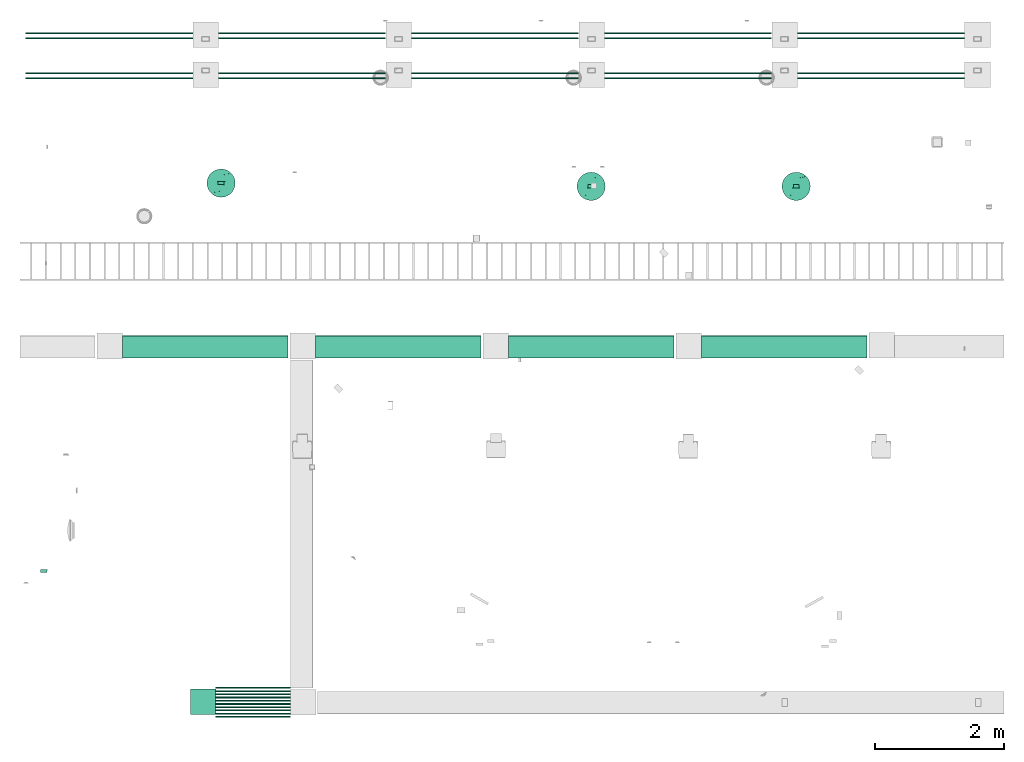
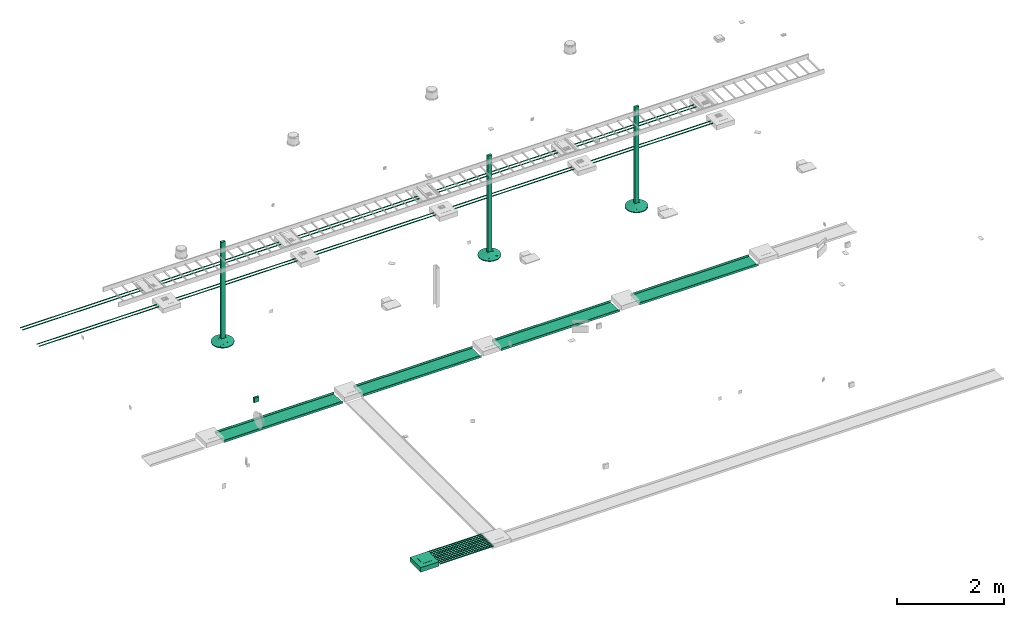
# One storey, part 1 of 24: 34 flow segments, 4 flow fittings, 1 flow terminal.
"""IFC2X3 building model written with IfcOpenShell, lengths in millimetres."""

from ifc_helpers import new_model, entity, si_unit, converted_unit, derived_unit, direction, frame, origin_with_axes, origin_2d_with_axis, place, context, subcontext, project, spatial, hollow_circle, extrude, open_shell, surface_model, source, transform, mapped, type_object, element, save


model = new_model("IFC2X3")

# Units and contexts
model_context = context("Model", 3, precision=0.01, world=frame((0.0, 4.29681676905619e-09, 0.0)), true_north=direction((4.01073788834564e-13, 1.0)))
plan_context = context("Plan", 3, precision=0.01, world=frame((0.0, 4.29681676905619e-09, 0.0)), true_north=direction((4.01073788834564e-13, 1.0)))
body_context = subcontext(model_context, "Body", "Model", "MODEL_VIEW")
ifc_project = project(units=[converted_unit("PLANEANGLEUNIT", "DEGREE", entity("IfcPositiveLengthMeasure", 0.0174532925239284), si_unit("PLANEANGLEUNIT", "RADIAN"), dimensions=[0, 0, 0, 0, 0, 0, 0]), si_unit("AREAUNIT", "SQUARE_METRE"), si_unit("LENGTHUNIT", "METRE", prefix="MILLI"), si_unit("MASSUNIT", "GRAM", prefix="KILO"), si_unit("POWERUNIT", "WATT"), si_unit("PRESSUREUNIT", "PASCAL"), si_unit("FORCEUNIT", "NEWTON", prefix="KILO"), si_unit("ELECTRICVOLTAGEUNIT", "VOLT"), si_unit("ELECTRICCURRENTUNIT", "AMPERE"), si_unit("THERMODYNAMICTEMPERATUREUNIT", "DEGREE_CELSIUS"), si_unit("TIMEUNIT", "SECOND"), si_unit("VOLUMEUNIT", "CUBIC_METRE"), derived_unit("LINEARVELOCITYUNIT", [(si_unit("LENGTHUNIT", "METRE"), 1), (si_unit("TIMEUNIT", "SECOND"), -1)]), derived_unit("VOLUMETRICFLOWRATEUNIT", [(si_unit("VOLUMEUNIT", "CUBIC_METRE"), 1), (si_unit("TIMEUNIT", "SECOND"), -1)]), derived_unit("THERMALTRANSMITTANCEUNIT", [(si_unit("POWERUNIT", "WATT"), 1), (si_unit("THERMODYNAMICTEMPERATUREUNIT", "KELVIN"), -1), (si_unit("AREAUNIT", "SQUARE_METRE"), -1)]), derived_unit("SOUNDPRESSUREUNIT", [(si_unit("PRESSUREUNIT", "PASCAL"), 1)])], contexts=[model_context, plan_context])

# Site, building, storey
site_placement = place(None, frame((0.0, -4.29681676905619e-09, 0.0), z_axis=(0.0, 0.0, 1.0), x_axis=(1.0, 0.0, 0.0)))
site = spatial("IfcSite", under=ifc_project, at=site_placement, Name="ENGM", CompositionType="ELEMENT")
building_placement = place(site_placement, frame((0.0, 4.29681676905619e-09, 0.0), z_axis=(0.0, 0.0, 1.0), x_axis=(1.0, 0.0, 0.0)))
building = spatial("IfcBuilding", under=site, at=building_placement, Name="TH", CompositionType="ELEMENT")
storey_placement = place(building_placement, frame((0.0, 0.0, 210200.0), z_axis=(0.0, 0.0, 1.0), x_axis=(1.0, 0.0, 0.0)))
storey = spatial("IfcBuildingStorey", under=building, at=storey_placement, Name="Nivå F - 0,7 m", CompositionType="ELEMENT", Elevation=210200.0)

# Flow fittings
junction_box_type = type_object("IfcJunctionBoxType", Name="Koblingsboks åpen", PredefinedType="NOTDEFINED")
shared_shape_1 = source(origin_with_axes(), body_context, "Body", "SurfaceModel", [
    surface_model("IfcShellBasedSurfaceModel", [(-55.0, 46.0, 55.0), (-55.0, 32.2, 55.0), (55.0, 32.2, 55.0), (55.0, 46.0, 55.0), (55.0, 46.0, -55.0), (55.0, 32.2, -55.0), (-55.0, 32.2, -55.0), (-55.0, 46.0, -55.0), (-52.0, 32.2, 52.0), (-52.0, 0.0, 52.0), (52.0, 0.0, 52.0), (52.0, 32.2, 52.0), (52.0, 32.2, -52.0), (52.0, 0.0, -52.0), (-52.0, 0.0, -52.0), (-52.0, 32.2, -52.0)], [open_shell([[[0, 1, 2]], [[2, 3, 0]], [[4, 5, 6]], [[6, 7, 4]], [[2, 1, 6]], [[6, 5, 2]], [[3, 2, 5]], [[5, 4, 3]], [[0, 3, 4]], [[4, 7, 0]], [[1, 0, 7]], [[7, 6, 1]], [[8, 9, 10]], [[10, 11, 8]], [[12, 13, 14]], [[14, 15, 12]], [[10, 9, 14]], [[14, 13, 10]], [[11, 10, 13]], [[13, 12, 11]], [[8, 11, 12]], [[12, 15, 8]], [[9, 8, 15]], [[15, 14, 9]]])]),
])
flow_fitting_placement = place(storey_placement, frame((895482.7131, 478641.6375, 3300.0), z_axis=(0.0, 0.0, 1.0), x_axis=(1.0, 0.0, 0.0)))
element("IfcFlowFitting", 1, at=flow_fitting_placement, inside=storey, type_object=junction_box_type, Name="Koblingsboks åpen", context=body_context, shape_type="MappedRepresentation", body=[
    mapped(shared_shape_1, transform((0.0, 0.0, 0.0), scale=1.0)),
])
cable_carrier_fitting_type = type_object("IfcCableCarrierFittingType", Name="NedføringsStaver", PredefinedType="NOTDEFINED")
shared_shape_2 = source(origin_with_axes(), body_context, "Body", "SurfaceModel", [
    surface_model("IfcShellBasedSurfaceModel", [(95.45442, -198.21316, 18.26334), (0.0, -220.0, 18.26334), (48.95461, -214.48415, 18.26334), (-220.0, 0.0, 18.26334), (172.00293, -137.16775, 18.26334), (214.48415, -48.95461, 18.26334), (214.48415, 48.95461, 18.26334), (198.21316, -95.45442, 18.26334), (137.16775, -172.00293, 18.26334), (-48.95461, -214.48415, 18.26334), (-137.16775, -172.00293, 18.26334), (-95.45442, -198.21316, 18.26334), (-172.00293, -137.16775, 18.26334), (-214.48415, -48.95461, 18.26334), (-198.21316, -95.45442, 18.26334), (220.0, 0.0, 18.26334), (198.21316, 95.45442, 18.26334), (172.00293, 137.16775, 18.26334), (95.45442, 198.21316, 18.26334), (48.95461, 214.48415, 18.26334), (0.0, 220.0, 18.26334), (137.16775, 172.00293, 18.26334), (-198.21316, 95.45442, 18.26334), (-214.48415, 48.95461, 18.26334), (-137.16775, 172.00293, 18.26334), (-48.95461, 214.48415, 18.26334), (-95.45442, 198.21316, 18.26334), (-172.00293, 137.16775, 18.26334), (0.0, 220.0, 0.0), (48.95461, 214.48415, 0.0), (95.45442, 198.21316, 0.0), (172.00293, 137.16775, 0.0), (198.21316, 95.45442, 0.0), (214.48415, 48.95461, 0.0), (137.16775, 172.00293, 0.0), (-220.0, 0.0, 0.0), (-214.48415, -48.95461, 0.0), (-48.95461, 214.48415, 0.0), (-137.16775, 172.00293, 0.0), (-95.45442, 198.21316, 0.0), (-172.00293, 137.16775, 0.0), (-198.21316, 95.45442, 0.0), (-214.48415, 48.95461, 0.0), (137.16775, -172.00293, 0.0), (214.48415, -48.95461, 0.0), (172.00293, -137.16775, 0.0), (198.21316, -95.45442, 0.0), (95.45442, -198.21316, 0.0), (48.95461, -214.48415, 0.0), (-172.00293, -137.16775, 0.0), (-198.21316, -95.45442, 0.0), (-137.16775, -172.00293, 0.0), (0.0, -220.0, 0.0), (-48.95461, -214.48415, 0.0), (-95.45442, -198.21316, 0.0), (220.0, 0.0, 0.0), (25.0, -45.0, 93.77002), (25.0, 45.0, 93.77002), (-25.0, 45.0, 93.77002), (-25.0, -45.0, 93.77002), (215.76334, 37.60134, 18.26334), (196.17122, 5.49895, 27.49017), (156.45658, 14.66386, 42.86822), (172.34244, 10.9979, 36.717), (185.10803, 116.31109, 18.26334), (206.34865, 72.20451, 18.26334), (-188.2283, 7.33193, 30.56578), (-206.34865, 72.20451, 18.26334), (140.2953, 88.19156, 40.72326), (154.58535, 154.58535, 18.26334), (131.43317, 100.56336, 40.9915), (116.31109, 185.10803, 18.26334), (115.09582, 112.43056, 43.12803), (188.2283, 7.33193, 30.56578), (59.60667, 131.26162, 50.76319), (82.1568, 125.31404, 48.14468), (72.20451, 206.34865, 18.26334), (41.97829, 41.08193, 87.1958), (41.90192, 93.74408, 68.57105), (33.48915, 43.04097, 90.4829), (-172.34244, 10.9979, 36.717), (-156.45658, 14.66386, 42.86822), (101.77074, 124.07315, 43.47792), (-140.57073, 18.32983, 49.01945), (-185.10803, 116.31109, 18.26334), (204.11414, 3.66597, 24.41456), (217.04255, 26.24807, 18.26334), (-191.66059, 105.88275, 18.26334), (-196.17122, 5.49895, 27.49017), (-217.04255, 26.24807, 18.26334), (-204.11414, 3.66597, 24.41456), (100.8561, 27.49475, 64.3975), (108.79903, 25.66176, 61.32189), (-37.32643, 122.76348, 57.69846), (-48.15002, 159.92659, 41.0503), (-60.80241, 128.83053, 51.47732), (15.14529, 166.09242, 41.21831), (2.23099, 141.72213, 52.02976), (12.46186, 104.83173, 67.61278), (0.0, 45.0, 93.77002), (-124.68488, 21.9958, 55.17066), (-139.91663, 95.60307, 39.24375), (-154.58535, 154.58535, 18.26334), (-112.57001, 109.94689, 44.61835), (-98.05938, 122.37782, 45.0433), (-116.31109, 185.10803, 18.26334), (-81.44098, 129.58253, 46.80384), (-72.20451, 206.34865, 18.26334), (140.57073, 18.32983, 49.01945), (178.55549, 126.73942, 18.26334), (-124.33681, 97.10567, 44.23458), (-92.91317, 29.32773, 67.47311), (67.44573, 35.20483, 77.33445), (75.93488, 33.2458, 74.04734), (-215.76334, 37.60134, 18.26334), (124.68488, 21.9958, 55.17066), (-145.87655, 163.29414, 18.26334), (84.42403, 31.28676, 70.76022), (28.44963, 87.23256, 73.42031), (45.93768, 144.99445, 47.45859), (31.73936, 136.50408, 52.65215), (58.95658, 37.16387, 80.62157), (50.46744, 39.1229, 83.90868), (24.4773, 217.24206, 18.26334), (-2.67744, 94.285, 72.4874), (-58.95658, 37.16387, 80.62157), (-33.47652, 174.81498, 36.36438), (-12.47819, 131.88295, 56.01668), (-24.4773, 217.24206, 18.26334), (-41.97829, 41.08193, 87.1958), (-33.48915, 43.04097, 90.4829), (-50.46744, 39.1229, 83.90868), (-67.44573, 35.20483, 77.33445), (-84.42403, 31.28676, 70.76022), (92.91317, 29.32773, 67.47311), (-75.93488, 33.2458, 74.04734), (-108.79903, 25.66176, 61.32189), (-215.76334, -37.60134, 18.26334), (-196.17122, -5.49895, 27.49017), (-156.45658, -14.66386, 42.86822), (-172.34244, -10.9979, 36.717), (-185.10803, -116.31109, 18.26334), (-206.34865, -72.20451, 18.26334), (188.2283, -7.33193, 30.56578), (206.34865, -72.20451, 18.26334), (-140.2953, -88.19156, 40.72326), (-154.58535, -154.58535, 18.26334), (-131.43317, -100.56336, 40.9915), (-116.31109, -185.10803, 18.26334), (-115.09582, -112.43056, 43.12803), (-188.2283, -7.33193, 30.56578), (-59.60667, -131.26162, 50.76319), (-82.1568, -125.31404, 48.14468), (-72.20451, -206.34865, 18.26334), (-41.97829, -41.08193, 87.1958), (-41.90192, -93.74408, 68.57105), (-33.48915, -43.04097, 90.4829), (172.34244, -10.9979, 36.717), (156.45658, -14.66386, 42.86822), (-101.77074, -124.07315, 43.47792), (140.57073, -18.32983, 49.01945), (185.10803, -116.31109, 18.26334), (-204.11414, -3.66597, 24.41456), (-217.04255, -26.24807, 18.26334), (191.66059, -105.88275, 18.26334), (196.17122, -5.49895, 27.49017), (217.04255, -26.24807, 18.26334), (204.11414, -3.66597, 24.41456), (-100.8561, -27.49475, 64.3975), (-108.79903, -25.66176, 61.32189), (37.32643, -122.76348, 57.69846), (48.15002, -159.92659, 41.0503), (60.80241, -128.83053, 51.47732), (-15.14529, -166.09242, 41.21831), (-2.23099, -141.72213, 52.02976), (-12.46186, -104.83173, 67.61278), (0.0, -45.0, 93.77002), (124.68488, -21.9958, 55.17066), (139.91663, -95.60307, 39.24375), (154.58535, -154.58535, 18.26334), (112.57001, -109.94689, 44.61835), (98.05938, -122.37782, 45.0433), (116.31109, -185.10803, 18.26334), (81.44098, -129.58253, 46.80384), (72.20451, -206.34865, 18.26334), (-140.57073, -18.32983, 49.01945), (-178.55549, -126.73942, 18.26334), (124.33681, -97.10567, 44.23458), (92.91317, -29.32773, 67.47311), (-67.44573, -35.20483, 77.33445), (-75.93488, -33.2458, 74.04734), (215.76334, -37.60134, 18.26334), (-124.68488, -21.9958, 55.17066), (145.87655, -163.29414, 18.26334), (-84.42403, -31.28676, 70.76022), (-28.44963, -87.23256, 73.42031), (-45.93768, -144.99445, 47.45859), (-31.73936, -136.50408, 52.65215), (-58.95658, -37.16387, 80.62157), (-50.46744, -39.1229, 83.90868), (-24.4773, -217.24206, 18.26334), (2.67744, -94.285, 72.4874), (58.95658, -37.16387, 80.62157), (33.47652, -174.81498, 36.36438), (12.47819, -131.88295, 56.01668), (24.4773, -217.24206, 18.26334), (41.97829, -41.08193, 87.1958), (33.48915, -43.04097, 90.4829), (50.46744, -39.1229, 83.90868), (67.44573, -35.20483, 77.33445), (84.42403, -31.28676, 70.76022), (-92.91317, -29.32773, 67.47311), (75.93488, -33.2458, 74.04734), (108.79903, -25.66176, 61.32189), (25.0, -45.0, 2300.00002), (25.0, 45.0, 2300.00002), (-25.0, -45.0, 2300.00002), (-25.0, 45.0, 2300.00002), (-25.0, -45.0, 0.0), (-25.0, 45.0, 0.0), (25.0, -45.0, 0.0), (25.0, 45.0, 0.0)], [open_shell([[[0, 1, 2]], [[0, 3, 1]], [[4, 5, 6]], [[4, 7, 5]], [[0, 8, 3]], [[3, 8, 4]], [[9, 10, 11]], [[10, 9, 1]], [[12, 10, 13]], [[13, 14, 12]], [[10, 1, 13]], [[13, 1, 3]], [[15, 6, 5]], [[6, 16, 17]], [[6, 17, 18]], [[6, 18, 3]], [[19, 20, 18]], [[18, 17, 21]], [[3, 18, 20]], [[3, 22, 23]], [[22, 3, 24]], [[25, 26, 24]], [[27, 22, 24]], [[3, 20, 24]], [[20, 25, 24]], [[6, 3, 4]], [[28, 29, 30]], [[28, 30, 31]], [[32, 33, 31]], [[31, 33, 28]], [[30, 34, 31]], [[35, 28, 36]], [[37, 38, 39]], [[37, 28, 38]], [[40, 38, 41]], [[35, 42, 41]], [[38, 35, 41]], [[28, 35, 38]], [[28, 33, 43]], [[44, 45, 33]], [[45, 44, 46]], [[47, 28, 43]], [[28, 47, 36]], [[45, 43, 33]], [[36, 47, 48]], [[36, 49, 50]], [[49, 36, 51]], [[52, 53, 54]], [[54, 51, 52]], [[52, 51, 36]], [[36, 48, 52]], [[44, 33, 55]], [[36, 13, 35]], [[50, 14, 36]], [[10, 49, 51]], [[51, 54, 11]], [[50, 49, 12]], [[53, 9, 54]], [[12, 14, 50]], [[14, 13, 36]], [[13, 3, 35]], [[9, 11, 54]], [[10, 51, 11]], [[10, 12, 49]], [[9, 53, 1]], [[53, 52, 1]], [[48, 2, 52]], [[47, 0, 48]], [[46, 44, 7]], [[5, 44, 55]], [[43, 8, 47]], [[8, 45, 4]], [[8, 0, 47]], [[2, 48, 0]], [[43, 45, 8]], [[45, 46, 4]], [[4, 46, 7]], [[7, 44, 5]], [[55, 15, 5]], [[52, 2, 1]], [[33, 6, 55]], [[32, 16, 33]], [[21, 31, 34]], [[34, 30, 18]], [[32, 31, 17]], [[29, 19, 30]], [[17, 16, 32]], [[16, 6, 33]], [[6, 15, 55]], [[19, 18, 30]], [[21, 34, 18]], [[21, 17, 31]], [[19, 29, 20]], [[29, 28, 20]], [[26, 39, 38]], [[41, 42, 22]], [[27, 40, 41]], [[24, 38, 40]], [[23, 42, 35]], [[25, 37, 26]], [[37, 25, 28]], [[26, 37, 39]], [[24, 26, 38]], [[40, 27, 24]], [[41, 22, 27]], [[23, 22, 42]], [[35, 3, 23]], [[28, 25, 20]], [[5, 6, 15]], [[8, 5, 7]], [[0, 2, 8]], [[21, 5, 25]], [[7, 4, 8]], [[25, 5, 8]], [[16, 21, 17]], [[21, 16, 6]], [[25, 19, 18]], [[25, 20, 19]], [[6, 5, 21]], [[18, 21, 25]], [[8, 2, 14]], [[1, 9, 11]], [[1, 11, 12]], [[14, 2, 12]], [[25, 8, 14]], [[11, 10, 12]], [[25, 14, 13]], [[26, 27, 24]], [[3, 26, 25]], [[3, 23, 22]], [[22, 27, 3]], [[3, 27, 26]], [[25, 13, 3]], [[2, 1, 12]], [[56, 57, 58]], [[58, 59, 56]], [[58, 3, 59]], [[60, 6, 61]], [[16, 62, 63]], [[64, 62, 16]], [[63, 65, 16]], [[66, 67, 23]], [[68, 69, 70]], [[21, 71, 72]], [[6, 65, 73]], [[74, 75, 76]], [[77, 78, 79]], [[80, 81, 22]], [[71, 82, 72]], [[83, 27, 84]], [[85, 86, 60]], [[81, 87, 22]], [[23, 88, 66]], [[67, 66, 80]], [[89, 3, 90]], [[70, 91, 92]], [[93, 94, 95]], [[96, 97, 98]], [[98, 99, 57]], [[100, 101, 102]], [[103, 104, 105]], [[106, 95, 107]], [[17, 108, 109]], [[110, 111, 103]], [[6, 73, 61]], [[75, 112, 113]], [[114, 90, 88]], [[90, 114, 89]], [[85, 15, 86]], [[80, 22, 67]], [[73, 65, 63]], [[88, 23, 114]], [[85, 60, 61]], [[27, 83, 100]], [[81, 83, 84]], [[81, 84, 87]], [[17, 115, 108]], [[62, 64, 108]], [[108, 64, 109]], [[115, 17, 69]], [[70, 92, 68]], [[101, 116, 102]], [[102, 27, 100]], [[82, 75, 113]], [[82, 18, 75]], [[18, 82, 71]], [[82, 117, 72]], [[75, 18, 76]], [[79, 78, 118]], [[119, 120, 78]], [[74, 121, 75]], [[74, 76, 19]], [[74, 122, 121]], [[119, 123, 120]], [[58, 99, 124]], [[125, 95, 106]], [[57, 118, 98]], [[126, 127, 128]], [[95, 129, 93]], [[93, 58, 127]], [[107, 26, 106]], [[93, 130, 58]], [[127, 20, 128]], [[94, 107, 95]], [[126, 25, 94]], [[123, 96, 120]], [[131, 129, 95]], [[106, 26, 104]], [[104, 132, 106]], [[104, 103, 133]], [[98, 97, 124]], [[120, 96, 98]], [[26, 105, 104]], [[103, 24, 110]], [[133, 103, 111]], [[72, 134, 91]], [[70, 69, 21]], [[91, 70, 72]], [[72, 70, 21]], [[92, 115, 68]], [[115, 69, 68]], [[123, 20, 96]], [[97, 20, 127]], [[117, 82, 113]], [[117, 134, 72]], [[133, 135, 104]], [[24, 103, 105]], [[110, 24, 116]], [[136, 111, 110]], [[101, 100, 136]], [[116, 101, 110]], [[110, 101, 136]], [[20, 97, 96]], [[124, 97, 127]], [[58, 124, 127]], [[98, 124, 99]], [[75, 121, 112]], [[74, 77, 122]], [[78, 120, 118]], [[77, 74, 78]], [[119, 78, 74]], [[74, 19, 119]], [[123, 119, 19]], [[98, 118, 120]], [[79, 118, 57]], [[95, 125, 131]], [[93, 129, 130]], [[126, 94, 93]], [[107, 94, 25]], [[127, 126, 93]], [[25, 126, 128]], [[132, 104, 135]], [[132, 125, 106]], [[56, 15, 57]], [[137, 13, 138]], [[14, 139, 140]], [[141, 139, 14]], [[140, 142, 14]], [[143, 144, 5]], [[145, 146, 147]], [[10, 148, 149]], [[13, 142, 150]], [[151, 152, 153]], [[154, 155, 156]], [[157, 158, 7]], [[148, 159, 149]], [[160, 4, 161]], [[162, 163, 137]], [[158, 164, 7]], [[5, 165, 143]], [[144, 143, 157]], [[166, 15, 167]], [[147, 168, 169]], [[170, 171, 172]], [[173, 174, 175]], [[175, 176, 59]], [[177, 178, 179]], [[180, 181, 182]], [[183, 172, 184]], [[12, 185, 186]], [[187, 188, 180]], [[13, 150, 138]], [[152, 189, 190]], [[191, 167, 165]], [[167, 191, 166]], [[162, 3, 163]], [[157, 7, 144]], [[150, 142, 140]], [[165, 5, 191]], [[162, 137, 138]], [[4, 160, 177]], [[158, 160, 161]], [[158, 161, 164]], [[12, 192, 185]], [[139, 141, 185]], [[185, 141, 186]], [[192, 12, 146]], [[147, 169, 145]], [[178, 193, 179]], [[179, 4, 177]], [[159, 152, 190]], [[159, 11, 152]], [[11, 159, 148]], [[159, 194, 149]], [[152, 11, 153]], [[156, 155, 195]], [[196, 197, 155]], [[151, 198, 152]], [[151, 153, 9]], [[151, 199, 198]], [[196, 200, 197]], [[56, 176, 201]], [[202, 172, 183]], [[59, 195, 175]], [[203, 204, 205]], [[172, 206, 170]], [[170, 56, 204]], [[184, 0, 183]], [[170, 207, 56]], [[204, 1, 205]], [[171, 184, 172]], [[203, 2, 171]], [[200, 173, 197]], [[208, 206, 172]], [[183, 0, 181]], [[181, 209, 183]], [[181, 180, 210]], [[175, 174, 201]], [[197, 173, 175]], [[0, 182, 181]], [[180, 8, 187]], [[210, 180, 188]], [[149, 211, 168]], [[147, 146, 10]], [[168, 147, 149]], [[149, 147, 10]], [[169, 192, 145]], [[192, 146, 145]], [[200, 1, 173]], [[174, 1, 204]], [[194, 159, 190]], [[194, 211, 149]], [[210, 212, 181]], [[8, 180, 182]], [[187, 8, 193]], [[213, 188, 187]], [[178, 177, 213]], [[193, 178, 187]], [[187, 178, 213]], [[1, 174, 173]], [[201, 174, 204]], [[56, 201, 204]], [[175, 201, 176]], [[152, 198, 189]], [[151, 154, 199]], [[155, 197, 195]], [[154, 151, 155]], [[196, 155, 151]], [[151, 9, 196]], [[200, 196, 9]], [[175, 195, 197]], [[156, 195, 59]], [[172, 202, 208]], [[170, 206, 207]], [[203, 171, 170]], [[184, 171, 2]], [[204, 203, 170]], [[2, 203, 205]], [[209, 181, 212]], [[209, 202, 183]], [[214, 215, 216]], [[217, 216, 215]], [[218, 219, 220]], [[221, 220, 219]], [[217, 215, 221]], [[221, 219, 217]], [[216, 217, 219]], [[219, 218, 216]], [[214, 216, 218]], [[218, 220, 214]], [[215, 214, 220]], [[220, 221, 215]]])]),
])
for number, where, z_axis, x_axis in (
    (2, (903991.64234, 484642.5, 0.0), (0.0, 0.0, 1.0), (0.0, 1.0, 0.0)),
    (3, (907179.4197, 484642.5, 0.0), (0.0, 0.0, 1.0), (0.0, 1.0, 0.0)),
    (4, (898238.2161, 484692.5, 0.0), (0.0, 0.0, 1.0), (0.0, 1.0, 0.0)),
):
    element("IfcFlowFitting", number, at=place(storey_placement, frame(where, z_axis=z_axis, x_axis=x_axis)), inside=storey, type_object=cable_carrier_fitting_type, Name="NedføringsStaver", context=body_context, shape_type="MappedRepresentation", body=[
        mapped(shared_shape_2, transform((0.0, 0.0, 0.0), scale=1.0)),
    ])

# Flow segments
cable_carrier_segment_type_1 = type_object("IfcCableCarrierSegmentType", Name="Trekkerør, glatt", PredefinedType="CONDUITSEGMENT")
shared_shape_3 = source(origin_with_axes(), body_context, "Body", "SweptSolid", [
    extrude(hollow_circle(Radius=11.5, WallThickness=2.0, at=origin_2d_with_axis()), frame((0.0, 0.0, 0.0), z_axis=(1.0, 0.0, 0.0), x_axis=(0.0, 1.0, 0.0)), (0.0, 0.0, 1.0), 2600.0),
])
for number, where, z_axis, x_axis in (
    (5, (895198.26962, 486401.49709, -30.0), (0.0, 0.0, 1.0), (1.0, 0.0, 0.0)),
    (6, (895198.26962, 486321.49709, -30.0), (0.0, 0.0, 1.0), (1.0, 0.0, 0.0)),
    (7, (898198.26962, 486401.49709, -30.0), (0.0, 0.0, 1.0), (1.0, 0.0, 0.0)),
    (8, (898198.26962, 486321.49709, -30.0), (0.0, 0.0, 1.0), (1.0, 0.0, 0.0)),
    (9, (901198.26962, 486401.49709, -30.0), (0.0, 0.0, 1.0), (1.0, 0.0, 0.0)),
    (10, (901198.26962, 486321.49709, -30.0), (0.0, 0.0, 1.0), (1.0, 0.0, 0.0)),
    (11, (904198.26962, 486401.49709, -30.0), (0.0, 0.0, 1.0), (1.0, 0.0, 0.0)),
    (12, (904198.26962, 486321.49709, -30.0), (0.0, 0.0, 1.0), (1.0, 0.0, 0.0)),
    (13, (907198.26962, 486401.49709, -30.0), (0.0, 0.0, 1.0), (1.0, 0.0, 0.0)),
    (14, (907198.26962, 486321.49709, -30.0), (0.0, 0.0, 1.0), (1.0, 0.0, 0.0)),
    (15, (895198.26962, 487021.49709, -30.0), (0.0, 0.0, 1.0), (1.0, 0.0, 0.0)),
    (16, (895198.26962, 486941.49709, -30.0), (0.0, 0.0, 1.0), (1.0, 0.0, 0.0)),
    (17, (898198.26962, 487021.49709, -30.0), (0.0, 0.0, 1.0), (1.0, 0.0, 0.0)),
    (18, (898198.26962, 486941.49709, -30.0), (0.0, 0.0, 1.0), (1.0, 0.0, 0.0)),
    (19, (901198.26962, 487021.49709, -30.0), (0.0, 0.0, 1.0), (1.0, 0.0, 0.0)),
    (20, (901198.26962, 486941.49709, -30.0), (0.0, 0.0, 1.0), (1.0, 0.0, 0.0)),
    (21, (904198.26962, 487021.49709, -30.0), (0.0, 0.0, 1.0), (1.0, 0.0, 0.0)),
    (22, (904198.26962, 486941.49709, -30.0), (0.0, 0.0, 1.0), (1.0, 0.0, 0.0)),
    (23, (907198.26962, 487021.49709, -30.0), (0.0, 0.0, 1.0), (1.0, 0.0, 0.0)),
    (24, (907198.26962, 486941.49709, -30.0), (0.0, 0.0, 1.0), (1.0, 0.0, 0.0)),
):
    element("IfcFlowSegment", number, at=place(storey_placement, frame(where, z_axis=z_axis, x_axis=x_axis)), inside=storey, type_object=cable_carrier_segment_type_1, Name="Trekkerør, glatt", context=body_context, shape_type="MappedRepresentation", body=[
        mapped(shared_shape_3, transform((0.0, 0.0, 0.0), scale=1.0)),
    ])
cable_carrier_segment_type_2 = type_object("IfcCableCarrierSegmentType", Name="Gulvkanal", PredefinedType="CABLETRAYSEGMENT")
shared_shape_4 = source(origin_with_axes(), body_context, "Body", "SurfaceModel", [
    surface_model("IfcShellBasedSurfaceModel", [(0.0, 175.0, 25.0), (0.0, 175.0, -25.0), (0.0, 172.46, -22.46), (0.0, -175.0, 25.0), (0.0, -172.46, -22.46), (0.0, -175.0, -25.0), (0.0, 172.46, 25.0), (0.0, -172.46, 25.0), (2572.16247, -175.0, -25.0), (2572.16247, -172.46, -22.46), (2572.16247, -175.0, 25.0), (2572.16247, 175.0, -25.0), (2572.16247, -172.46, 25.0), (2572.16247, 172.46, -22.46), (2572.16247, 175.0, 25.0), (2572.16247, 172.46, 25.0)], [open_shell([[[0, 1, 2]], [[3, 4, 5]], [[2, 6, 0]], [[4, 3, 7]], [[1, 5, 4]], [[4, 2, 1]], [[8, 9, 10]], [[9, 8, 11]], [[12, 10, 9]], [[13, 11, 14]], [[11, 13, 9]], [[14, 15, 13]], [[3, 5, 8]], [[8, 10, 3]], [[7, 3, 10]], [[10, 12, 7]], [[4, 7, 9]], [[12, 9, 7]], [[2, 4, 13]], [[9, 13, 4]], [[6, 2, 15]], [[13, 15, 2]], [[0, 6, 15]], [[15, 14, 0]], [[1, 0, 14]], [[14, 11, 1]], [[5, 1, 8]], [[11, 8, 1]]])]),
])
for number, where, z_axis, x_axis in (
    (25, (908280.0125, 482146.65751, -100.0), (0.0, 0.0, 1.0), (-1.0, 0.0, 0.0)),
    (26, (905280.0125, 482146.65751, -100.0), (0.0, 0.0, 1.0), (-1.0, 0.0, 0.0)),
    (27, (902280.0125, 482146.65751, -100.0), (0.0, 0.0, 1.0), (-1.0, 0.0, 0.0)),
    (28, (899280.0125, 482146.65751, -100.0), (0.0, 0.0, 1.0), (-1.0, 0.0, 0.0)),
):
    element("IfcFlowSegment", number, at=place(storey_placement, frame(where, z_axis=z_axis, x_axis=x_axis)), inside=storey, type_object=cable_carrier_segment_type_2, Name="Gulvkanal", context=body_context, shape_type="MappedRepresentation", body=[
        mapped(shared_shape_4, transform((0.0, 0.0, 0.0), scale=1.0)),
    ])
shared_shape_5 = source(origin_with_axes(), body_context, "Body", "SweptSolid", [
    extrude(hollow_circle(Radius=13.2, WallThickness=2.0, at=origin_2d_with_axis()), frame((0.0, 0.0, 0.0), z_axis=(1.0, 0.0, 0.0), x_axis=(0.0, 1.0, 0.0)), (0.0, 0.0, 1.0), 1160.0),
])
for number, where, z_axis, x_axis in (
    (29, (898154.75, 476395.0, -30.0), (0.0, 0.0, 1.0), (1.0, 0.0, 0.0)),
    (30, (898154.75, 476445.0, -30.0), (0.0, 0.0, 1.0), (1.0, 0.0, 0.0)),
    (31, (898154.75, 476495.0, -30.0), (0.0, 0.0, 1.0), (1.0, 0.0, 0.0)),
    (32, (898154.75, 476545.0, -30.0), (0.0, 0.0, 1.0), (1.0, 0.0, 0.0)),
    (33, (898154.75, 476595.0, -30.0), (0.0, 0.0, 1.0), (1.0, 0.0, 0.0)),
    (34, (898154.75, 476645.0, -30.0), (0.0, 0.0, 1.0), (1.0, 0.0, 0.0)),
    (35, (898154.75, 476695.0, -30.0), (0.0, 0.0, 1.0), (1.0, 0.0, 0.0)),
    (36, (898154.75, 476745.0, -30.0), (0.0, 0.0, 1.0), (1.0, 0.0, 0.0)),
    (37, (898154.75, 476795.0, -30.0), (0.0, 0.0, 1.0), (1.0, 0.0, 0.0)),
    (38, (898154.75, 476845.0, -30.0), (0.0, 0.0, 1.0), (1.0, 0.0, 0.0)),
):
    element("IfcFlowSegment", number, at=place(storey_placement, frame(where, z_axis=z_axis, x_axis=x_axis)), inside=storey, type_object=cable_carrier_segment_type_1, Name="Trekkerør, glatt", context=body_context, shape_type="MappedRepresentation", body=[
        mapped(shared_shape_5, transform((0.0, 0.0, 0.0), scale=1.0)),
    ])

# Flow terminal
electric_appliance_type = type_object("IfcElectricApplianceType", Name="OTHER-EE-POWER-BALANCED-DUMMY", PredefinedType="NOTDEFINED")
shared_shape_6 = source(origin_with_axes(), body_context, "Body", "SurfaceModel", [
    surface_model("IfcShellBasedSurfaceModel", [(199.96, -199.96, -8.96812), (199.96, 200.0, -8.96812), (-200.0, 200.0, -8.96812), (-200.0, -199.96, -8.96812), (-200.0, -199.96, -108.96812), (-200.0, 200.0, -108.96812), (199.96, -199.96, -108.96812), (199.96, 200.0, -108.96812), (99.91278, -102.96181, -1.48406), (99.91278, 100.0, -1.48406), (-100.0, -102.96181, -1.48406), (-100.0, 100.0, -1.48406), (-100.0, -102.96181, -4.48406), (-100.0, 100.0, -4.48406), (99.91278, 100.0, -4.48406), (99.91278, -102.96181, -4.48406), (199.96, -199.96, -4.48406), (199.96, 200.0, -4.48406), (-200.0, 200.0, -4.48406), (-200.0, -199.96, -4.48406), (-200.0, -199.96, -104.48406), (-200.0, 200.0, -104.48406), (199.96, -199.96, -104.48406), (199.96, 200.0, -104.48406)], [open_shell([[[0, 1, 2]], [[2, 3, 0]], [[4, 5, 6]], [[7, 6, 5]], [[2, 1, 7]], [[7, 5, 2]], [[3, 2, 5]], [[5, 4, 3]], [[0, 3, 4]], [[4, 6, 0]], [[1, 0, 6]], [[6, 7, 1]], [[8, 9, 10]], [[11, 10, 9]], [[12, 13, 14]], [[14, 15, 12]], [[11, 9, 14]], [[14, 13, 11]], [[10, 11, 13]], [[13, 12, 10]], [[8, 10, 12]], [[12, 15, 8]], [[9, 8, 15]], [[15, 14, 9]], [[16, 17, 18]], [[18, 19, 16]], [[20, 21, 22]], [[23, 22, 21]], [[18, 17, 23]], [[23, 21, 18]], [[19, 18, 21]], [[21, 20, 19]], [[16, 19, 20]], [[20, 22, 16]], [[17, 16, 22]], [[22, 23, 17]]])]),
])
flow_terminal_placement = place(storey_placement, frame((897960.37959, 476630.08655, 1.5), z_axis=(0.0, 0.0, 1.0), x_axis=(1.0, 0.0, 0.0)))
element("IfcFlowTerminal", 39, at=flow_terminal_placement, inside=storey, type_object=electric_appliance_type, Name="OTHER-EE-POWER-BALANCED-DUMMY", context=body_context, shape_type="MappedRepresentation", body=[
    mapped(shared_shape_6, transform((0.0, 0.0, 0.0), scale=1.0)),
])

save(model, "model.ifc")
